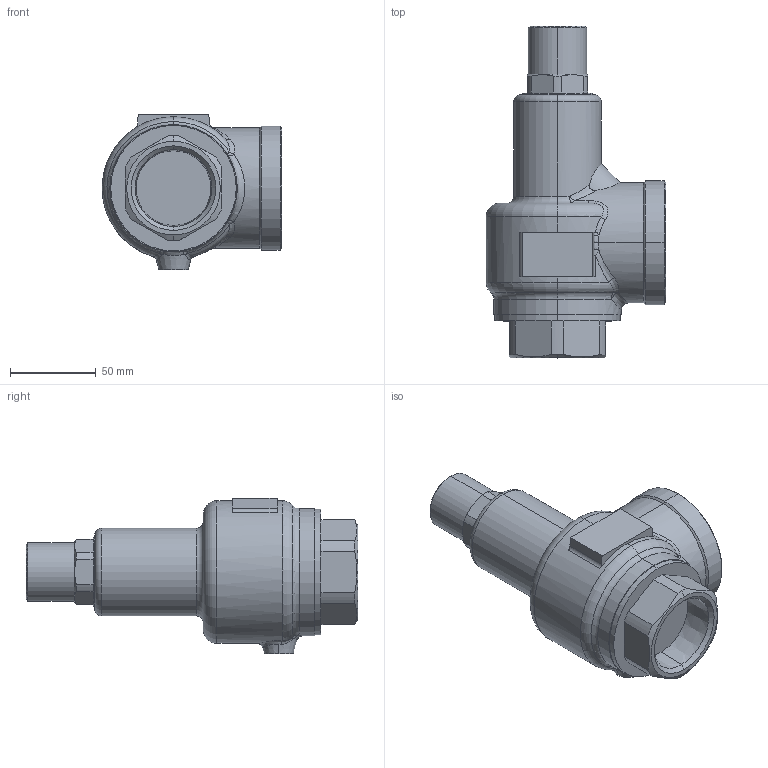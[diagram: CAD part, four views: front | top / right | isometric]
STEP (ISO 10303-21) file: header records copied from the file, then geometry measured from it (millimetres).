
FILE_DESCRIPTION (( 'STEP AP203' ), '1' );
FILE_NAME ('AL-150H 40A.STEP', '2026-01-13T02:00:25', ( '' ), ( '' ), 'SwSTEP 2.0', 'SolidWorks 2024', '' );
FILE_SCHEMA (( 'CONFIG_CONTROL_DESIGN' ));
Length unit declared in the file: millimetre
Products named in the file (1): AL-150H 40A
Bounding box: 104.5 x 193 x 90.5 mm (x, y, z)
Volume: 615787.1 mm3; surface area: 57067.3 mm2
Topology: 1 solids, 1 shells, 125 faces, 302 edges, 183 vertices
Faces by surface type: cylinder 35, plane 28, bspline 26, cone 22, torus 14
Entity records: 5564 total; most frequent: CARTESIAN_POINT 2734, ORIENTED_EDGE 600, DIRECTION 559, EDGE_CURVE 300, AXIS2_PLACEMENT_3D 234, VERTEX_POINT 183, CIRCLE 134, EDGE_LOOP 131
